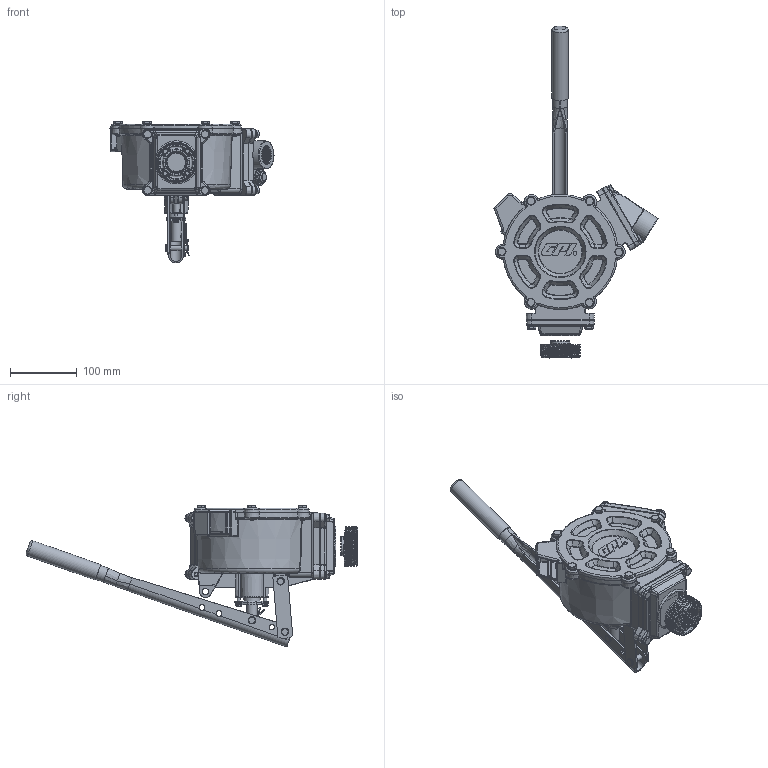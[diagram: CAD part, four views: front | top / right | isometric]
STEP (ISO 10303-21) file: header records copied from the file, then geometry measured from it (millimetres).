
FILE_DESCRIPTION(/* description */ (''),/* implementation_level */ '2;1');
FILE_NAME(/* name */ 'C:\Vault Projects\GPI Eng\New Projects\DHarris\Website model updates\STEP\HP-100.stp',/* time_stamp */ '2022-07-18T14:57:14-05:00',/* author */ ('gdanhar'),/* organization */ (''),/* preprocessor_version */ 'ST-DEVELOPER v18.1',/* originating_system */ 'Autodesk Inventor 2022',/* authorisation */ '');
FILE_SCHEMA (('AUTOMOTIVE_DESIGN { 1 0 10303 214 3 1 1 }'));
Length unit declared in the file: inch
Products named in the file (1): HP-100
Bounding box: 246.39 x 498.76 x 213.32 mm (x, y, z)
Volume: 3004063.8 mm3; surface area: 291035.6 mm2
Topology: 1 solids, 15 shells, 2411 faces, 5915 edges, 3507 vertices
Faces by surface type: plane 758, cylinder 600, bspline 415, torus 303, cone 303, sphere 32
Full cylindrical faces by diameter (mm): 4.826 x2, 6.096 x4, 6.35 x45, 6.472 x39, 7.239 x4, 7.938 x3, 8.026 x6, 8.064 x5, 8.077 x1, 8.382 x4, 8.738 x4, 9.525 x1, 11.125 x14, 11.176 x3, 11.989 x14, 15.824 x1, 16.764 x2, 18.034 x1, 21.637 x1, 23.876 x1, 24.384 x1, 25.146 x1, 152.146 x1, 162.814 x1
Entity records: 102980 total; most frequent: CARTESIAN_POINT 47235, ORIENTED_EDGE 11696, DIRECTION 10857, EDGE_CURVE 5848, AXIS2_PLACEMENT_3D 4393, VERTEX_POINT 3507, EDGE_LOOP 2525, FACE_OUTER_BOUND 2411
